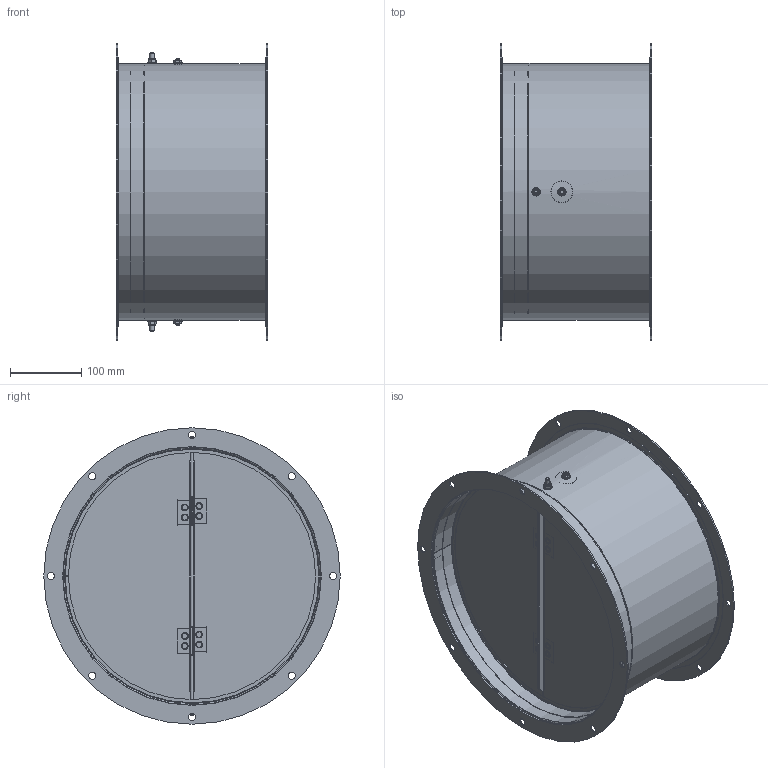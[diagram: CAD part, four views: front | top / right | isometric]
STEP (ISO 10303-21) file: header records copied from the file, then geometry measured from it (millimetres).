
FILE_DESCRIPTION(/* description */ ('Backdraft shutter KZD-560 SE'),/* implementation_level */ '2;1');
FILE_NAME(/* name */ 'Y:\VaultRobocze\Designs\2\0\04\900 540\2 004 900 540 1.stp',/* time_stamp */ '2018-03-30T10:35:13+02:00',/* author */ ('TomaszCie'),/* organization */ (''),/* preprocessor_version */ 'ST-DEVELOPER v16.13',/* originating_system */ 'Autodesk Inventor 2018',/* authorisation */ '');
FILE_SCHEMA (('AUTOMOTIVE_DESIGN { 1 0 10303 214 3 1 1 }'));
Length unit declared in the file: millimetre
Products named in the file (17): 2 004 900 540 1; DIN 985 - M6; DIN 6799 - 5; DIN 7337 - A4,8 x 8,5 x 2 BRALO; 2 004 900 344 1; 2 004 900 345 1; 2 004 901 540; 2 004 902 341; 2 004 901 541; 2 004 901 543; 2 004 901 542; 2 004 900 323; DIN 933 - M6  x 30; Wibroizolator RFHT; DIN 439 - M6; DIN 125 - A 6,4; Sprężyna skrętna fi0,5 EN10270
-01 L=16mm, H=25mm
Assembly tree (41 placements, depth 3):
  2 004 900 540 1
    DIN 7337 - A4,8 x 8,5 x 2 BRALO  x8
    DIN 985 - M6  x2
    DIN 125 - A 6,4  x7
    DIN 439 - M6  x3
    DIN 6799 - 5  x2
    2 004 900 344 1
    2 004 900 345 1  x2
    2 004 901 540
      2 004 902 341  x2
      2 004 901 541
      2 004 901 543
      2 004 901 542
    2 004 900 323  x4
    DIN 933 - M6  x 30  x2
    Wibroizolator RFHT  x2
    Sprężyna skrętna fi0,5 EN10270
-01 L=16mm, H=25mm  x2
Bounding box: 212 x 415 x 415 mm (x, y, z)
Volume: 446299.1 mm3; surface area: 949576.3 mm2
Topology: 40 solids, 40 shells, 572 faces, 1307 edges, 841 vertices
Faces by surface type: plane 293, cylinder 215, cone 40, torus 14, bspline 10
Full cylindrical faces by diameter (mm): 0.5 x4, 4.8 x8, 4.9 x8, 4.917 x5, 5 x2, 5.2 x8, 5.459 x2, 6 x5, 6.4 x7, 6.5 x12, 8.1 x2, 8.7 x2, 8.9 x2, 9.5 x8, 10 x16, 12 x7, 30 x2, 362 x2, 415 x2
Entity records: 9855 total; most frequent: CARTESIAN_POINT 3814, DIRECTION 1221, ORIENTED_EDGE 964, AXIS2_PLACEMENT_3D 502, EDGE_CURVE 482, EDGE_LOOP 353, VERTEX_POINT 337, FACE_OUTER_BOUND 239
